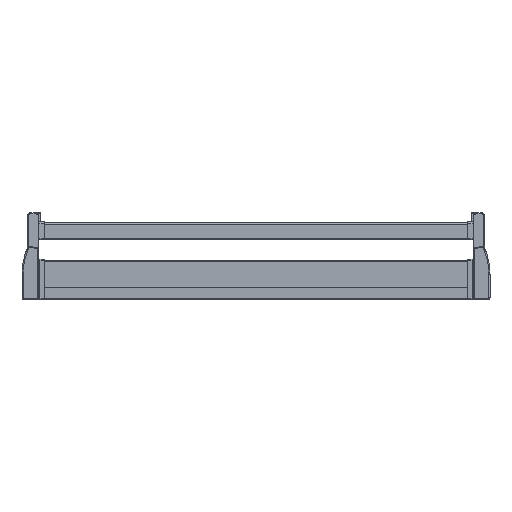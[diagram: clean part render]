
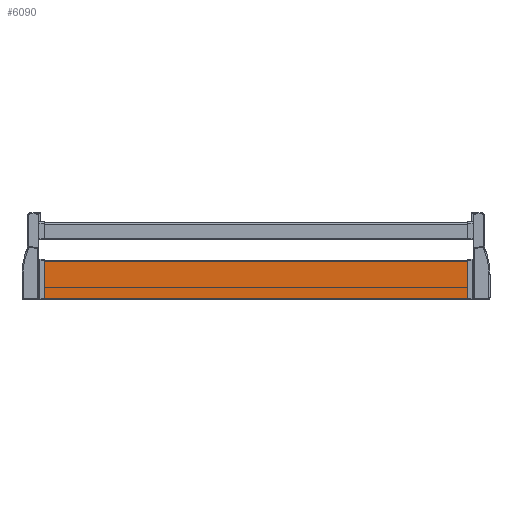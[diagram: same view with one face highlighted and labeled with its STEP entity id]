
A CAD part, top view. The second image highlights one B-rep face of the part: STEP entity #6090.
In plain terms, the highlighted planar face has unit normal (0, 0, 1).
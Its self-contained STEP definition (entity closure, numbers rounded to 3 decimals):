
#746 = CARTESIAN_POINT ( 'NONE',  ( 388.8, -92.5, 1.4 ) ) ;
#747 = DIRECTION ( 'NONE',  ( 0., 1., 0. ) ) ;
#748 = VECTOR ( 'NONE', #747, 1000. ) ;
#749 = CARTESIAN_POINT ( 'NONE',  ( 388.8, -92.5, 1.4 ) ) ;
#750 = LINE ( 'NONE', #749, #748 ) ;
#751 = CARTESIAN_POINT ( 'NONE',  ( 388.8, -23., 1.4 ) ) ;
#1257 = CARTESIAN_POINT ( 'NONE',  ( -388.8, -23., 1.4 ) ) ;
#1423 = DIRECTION ( 'NONE',  ( 0., 1., 0. ) ) ;
#1424 = VECTOR ( 'NONE', #1423, 1000. ) ;
#1425 = CARTESIAN_POINT ( 'NONE',  ( -388.8, -92.5, 1.4 ) ) ;
#1426 = LINE ( 'NONE', #1425, #1424 ) ;
#1488 = DIRECTION ( 'NONE',  ( -1., 0., 0. ) ) ;
#1489 = VECTOR ( 'NONE', #1488, 1000. ) ;
#1490 = CARTESIAN_POINT ( 'NONE',  ( 462.556, -23., 1.4 ) ) ;
#1491 = DIRECTION ( 'NONE',  ( 0., 1., 0. ) ) ;
#1492 = DIRECTION ( 'NONE',  ( 0., 0., -1. ) ) ;
#1493 = CARTESIAN_POINT ( 'NONE',  ( 462.556, -92.5, 1.4 ) ) ;
#1494 = LINE ( 'NONE', #1490, #1489 ) ;
#1495 = AXIS2_PLACEMENT_3D ( 'NONE', #1493, #1492, #1491 ) ;
#1496 = PLANE ( 'NONE',  #1495 ) ;
#1497 = FACE_OUTER_BOUND ( 'NONE', #6091, .T. ) ;
#1503 = CARTESIAN_POINT ( 'NONE',  ( -388.8, -92.5, 1.4 ) ) ;
#1504 = DIRECTION ( 'NONE',  ( -1., 0., 0. ) ) ;
#1505 = VECTOR ( 'NONE', #1504, 1000. ) ;
#1506 = CARTESIAN_POINT ( 'NONE',  ( 462.556, -92.5, 1.4 ) ) ;
#1510 = LINE ( 'NONE', #1506, #1505 ) ;
#5499 = VERTEX_POINT ( 'NONE', #751 ) ;
#5502 = EDGE_CURVE ( 'NONE', #5504, #5499, #750, .T. ) ;
#5504 = VERTEX_POINT ( 'NONE', #746 ) ;
#5847 = VERTEX_POINT ( 'NONE', #1257 ) ;
#5967 = ORIENTED_EDGE ( 'NONE', *, *, #5969, .F. ) ;
#5969 = EDGE_CURVE ( 'NONE', #6085, #5847, #1426, .T. ) ;
#6082 = EDGE_CURVE ( 'NONE', #5504, #6085, #1510, .T. ) ;
#6085 = VERTEX_POINT ( 'NONE', #1503 ) ;
#6090 = ADVANCED_FACE ( 'NONE', ( #1497 ), #1496, .F. ) ;
#6091 = EDGE_LOOP ( 'NONE', ( #6092, #6093, #6094, #5967 ) ) ;
#6092 = ORIENTED_EDGE ( 'NONE', *, *, #6082, .F. ) ;
#6093 = ORIENTED_EDGE ( 'NONE', *, *, #5502, .T. ) ;
#6094 = ORIENTED_EDGE ( 'NONE', *, *, #6095, .T. ) ;
#6095 = EDGE_CURVE ( 'NONE', #5499, #5847, #1494, .T. ) ;
